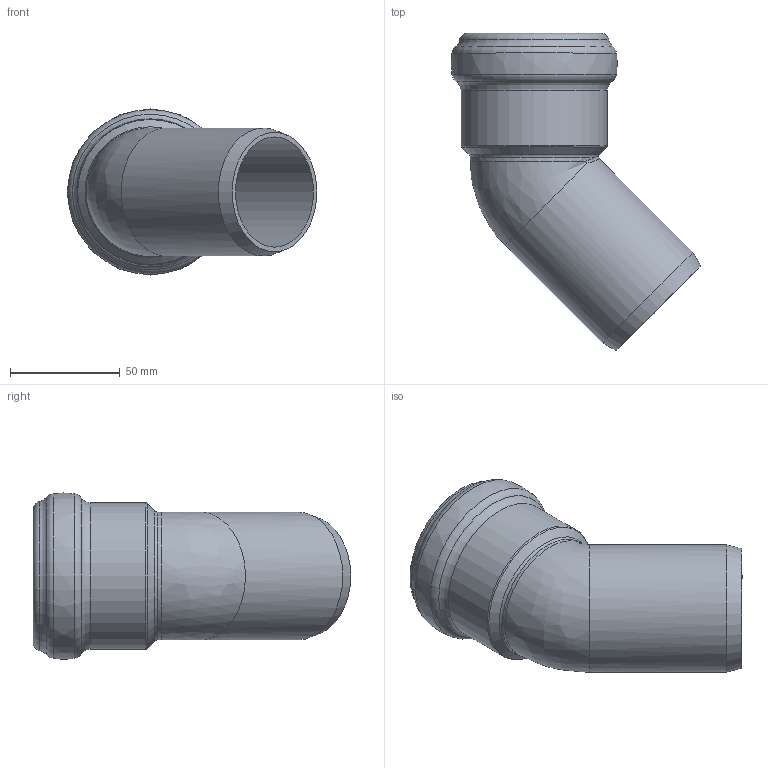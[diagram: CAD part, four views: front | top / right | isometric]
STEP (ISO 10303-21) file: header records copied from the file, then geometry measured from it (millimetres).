
FILE_DESCRIPTION(/* description */ (''),/* implementation_level */ '2;1');
FILE_NAME(/* name */ '332120z.stp',/* time_stamp */ '2026-02-19T11:41:00+01:00',/* author */ ('corinna'),/* organization */ (''),/* preprocessor_version */ 'ST-DEVELOPER v20',/* originating_system */ 'Autodesk Inventor 2024',/* authorisation */ '');
FILE_SCHEMA (('AUTOMOTIVE_DESIGN { 1 0 10303 214 3 1 1 }'));
Length unit declared in the file: millimetre
Products named in the file (1): 332120z
Bounding box: 113.62 x 144.42 x 75.56 mm (x, y, z)
Volume: 111293.9 mm3; surface area: 57089.4 mm2
Topology: 1 solids, 1 shells, 34 faces, 88 edges, 56 vertices
Faces by surface type: torus 15, cylinder 9, cone 5, bspline 3, plane 2
Full cylindrical faces by diameter (mm): 50.2 x2, 58.2 x1, 59 x1, 59.2 x2, 66.6 x1, 67.8 x1
Entity records: 1254 total; most frequent: CARTESIAN_POINT 323, DIRECTION 221, ORIENTED_EDGE 176, AXIS2_PLACEMENT_3D 104, EDGE_CURVE 88, CIRCLE 68, VERTEX_POINT 56, EDGE_LOOP 36
